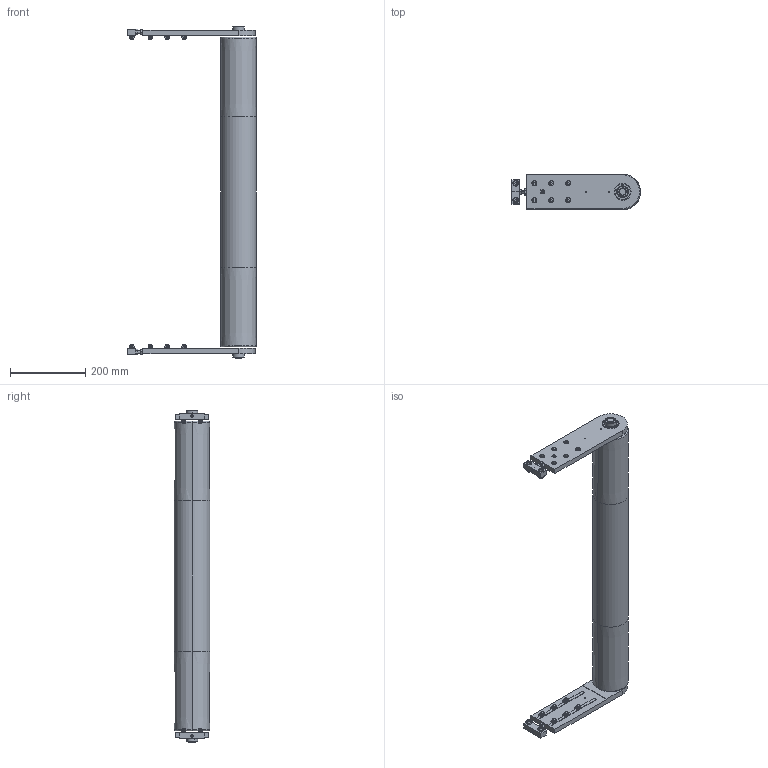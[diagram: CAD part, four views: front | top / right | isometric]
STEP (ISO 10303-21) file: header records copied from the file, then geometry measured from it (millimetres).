
FILE_DESCRIPTION (( 'STEP AP203' ), '1' );
FILE_NAME ('084.095.KI.800.STEP', '2015-11-12T10:01:55', ( '' ), ( '' ), 'SwSTEP 2.0', 'SolidWorks 2012', '' );
FILE_SCHEMA (( 'CONFIG_CONTROL_DESIGN' ));
Length unit declared in the file: millimetre
Products named in the file (1): 084.095.KI.800
Bounding box: 343.5 x 95 x 885 mm (x, y, z)
Surface area: 434540.4 mm2 (no closed solid volume)
Topology: 0 solids, 67 shells, 641 faces, 1928 edges, 1340 vertices
Faces by surface type: plane 395, cylinder 118, torus 68, cone 52, sphere 4, bspline 4
Entity records: 22731 total; most frequent: CARTESIAN_POINT 5446, DIRECTION 3648, ORIENTED_EDGE 3216, EDGE_CURVE 1920, VERTEX_POINT 1336, AXIS2_PLACEMENT_3D 1314, VECTOR 1020, LINE 1020
